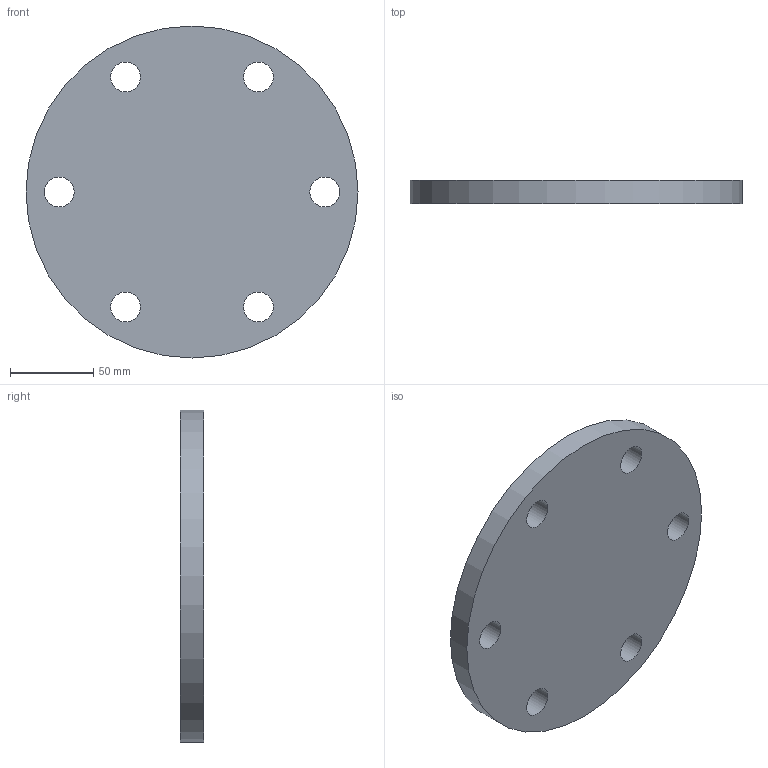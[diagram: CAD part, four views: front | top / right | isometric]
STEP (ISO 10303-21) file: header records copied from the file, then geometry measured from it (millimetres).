
FILE_DESCRIPTION(/* description */ (''),/* implementation_level */ '2;1');
FILE_NAME(/* name */ 'Z:\Geberit\Export\NewStep\366748.stp',/* time_stamp */ '2014-04-02T07:54:48+02:00',/* author */ ('nelson'),/* organization */ (''),/* preprocessor_version */ 'ST-DEVELOPER v15.2',/* originating_system */ 'Autodesk Inventor 2014',/* authorisation */ '');
FILE_SCHEMA (('AUTOMOTIVE_DESIGN { 1 0 10303 214 3 1 1 }'));
Length unit declared in the file: millimetre
Products named in the file (1): 366748
Bounding box: 200 x 14 x 200 mm (x, y, z)
Volume: 418447.6 mm3; surface area: 73324.8 mm2
Topology: 1 solids, 1 shells, 9 faces, 21 edges, 14 vertices
Faces by surface type: cylinder 7, plane 2
Full cylindrical faces by diameter (mm): 18 x6, 200 x1
Entity records: 279 total; most frequent: DIRECTION 48, CARTESIAN_POINT 38, EDGE_LOOP 28, ORIENTED_EDGE 28, AXIS2_PLACEMENT_3D 24, FACE_BOUND 21, CIRCLE 14, VERTEX_POINT 14
